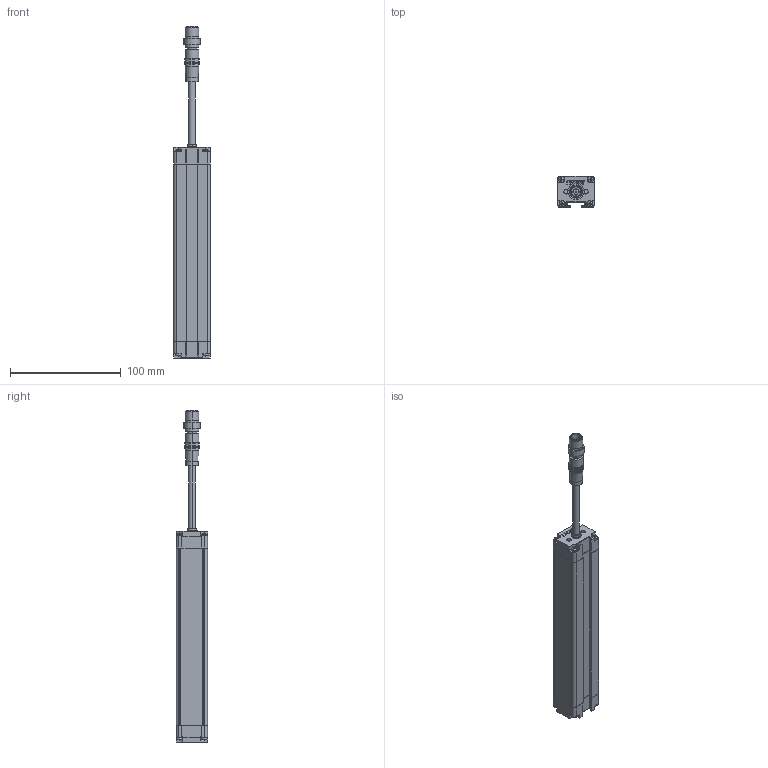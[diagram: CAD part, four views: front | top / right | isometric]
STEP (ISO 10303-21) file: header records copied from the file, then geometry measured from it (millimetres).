
FILE_DESCRIPTION((''),'2;1');
FILE_NAME('SMT1-CGQ_ASM','2025-08-08T08:19:23',('Administrator'),(''),'CREO PARAMETRIC BY PTC INC, 2016510','CREO PARAMETRIC BY PTC INC, 2016510','');
FILE_SCHEMA(('CONFIG_CONTROL_DESIGN'));
Length unit declared in the file: millimetre
Products named in the file (7): SMT1-XINGCAI-V1; SMT1-SDG-V1; SMT1-XDG-V1; M12-CHATOU; ST3X18; CT4-LVGUANGBAN; SMT1-CGQ_ASM
Assembly tree (13 placements, depth 2):
  SMT1-CGQ_ASM
    SMT1-XINGCAI-V1
    SMT1-SDG-V1
    SMT1-XDG-V1
    M12-CHATOU
    ST3X18  x8
    CT4-LVGUANGBAN
Bounding box: 33 x 28.02 x 299.5 mm (x, y, z)
Volume: 153889.3 mm3; surface area: 55196.9 mm2
Topology: 13 solids, 13 shells, 712 faces, 1868 edges, 1200 vertices
Faces by surface type: plane 382, cylinder 184, extrusion 86, sphere 32, cone 20, bspline 8
Entity records: 18128 total; most frequent: CARTESIAN_POINT 4347, ORIENTED_EDGE 2916, DIRECTION 2580, EDGE_CURVE 1458, VECTOR 1036, VERTEX_POINT 955, LINE 950, AXIS2_PLACEMENT_3D 772
